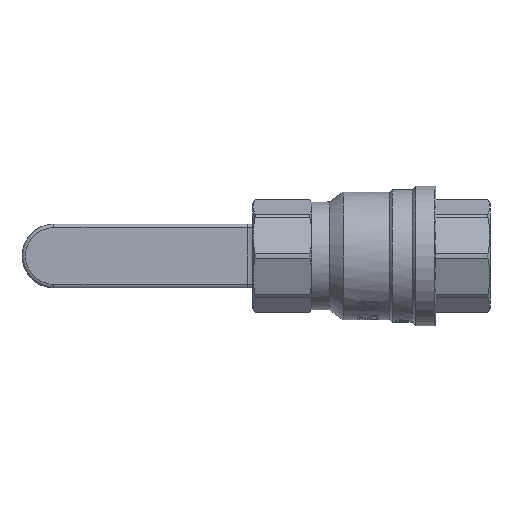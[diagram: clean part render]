
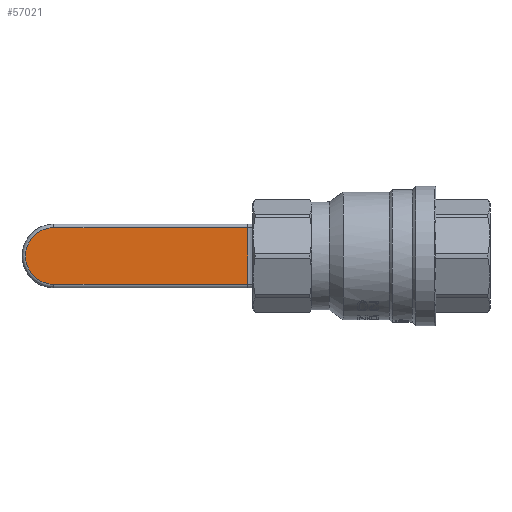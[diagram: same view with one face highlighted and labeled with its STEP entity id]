
A CAD part, front view. The second image highlights one B-rep face of the part: STEP entity #57021.
In plain terms, the highlighted planar face has unit normal (0, -1, 0).
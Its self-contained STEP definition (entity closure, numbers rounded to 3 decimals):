
#56953=CARTESIAN_POINT('',(-34.808,47.3,-8.0));
#56954=VERTEX_POINT('',#56953);
#56955=CARTESIAN_POINT('',(-34.808,47.3,8.0));
#56956=VERTEX_POINT('',#56955);
#56957=CARTESIAN_POINT('',(-34.808,47.3,-8.0));
#56958=DIRECTION('',(0.0,0.0,1.0));
#56959=VECTOR('',#56958,16.0);
#56960=LINE('',#56957,#56959);
#56961=EDGE_CURVE('',#56954,#56956,#56960,.T.);
#56990=CARTESIAN_POINT('',(-32.26,47.3,-23.5));
#56991=DIRECTION('',(0.0,1.0,0.0));
#56992=DIRECTION('',(0.0,0.0,-1.0));
#56993=AXIS2_PLACEMENT_3D('',#56990,#56991,#56992);
#56994=PLANE('',#56993);
#56995=ORIENTED_EDGE('',*,*,#56961,.T.);
#56996=CARTESIAN_POINT('',(-89.5,47.3,8.0));
#56997=VERTEX_POINT('',#56996);
#56998=CARTESIAN_POINT('',(-34.808,47.3,8.0));
#56999=DIRECTION('',(-1.0,0.0,0.0));
#57000=VECTOR('',#56999,54.692);
#57001=LINE('',#56998,#57000);
#57002=EDGE_CURVE('',#56956,#56997,#57001,.T.);
#57003=ORIENTED_EDGE('',*,*,#57002,.T.);
#57004=CARTESIAN_POINT('',(-89.5,47.3,-8.0));
#57005=VERTEX_POINT('',#57004);
#57006=CARTESIAN_POINT('',(-89.5,47.3,0.));
#57007=DIRECTION('',(0.0,-1.0,0.0));
#57008=DIRECTION('',(0.0,0.0,1.0));
#57009=AXIS2_PLACEMENT_3D('',#57006,#57007,#57008);
#57010=CIRCLE('',#57009,8.0);
#57011=EDGE_CURVE('',#56997,#57005,#57010,.T.);
#57012=ORIENTED_EDGE('',*,*,#57011,.T.);
#57013=CARTESIAN_POINT('',(-89.5,47.3,-8.0));
#57014=DIRECTION('',(1.0,0.0,0.0));
#57015=VECTOR('',#57014,54.692);
#57016=LINE('',#57013,#57015);
#57017=EDGE_CURVE('',#57005,#56954,#57016,.T.);
#57018=ORIENTED_EDGE('',*,*,#57017,.T.);
#57019=EDGE_LOOP('',(#56995,#57003,#57012,#57018));
#57020=FACE_OUTER_BOUND('',#57019,.T.);
#57021=ADVANCED_FACE('',(#57020),#56994,.F.);
